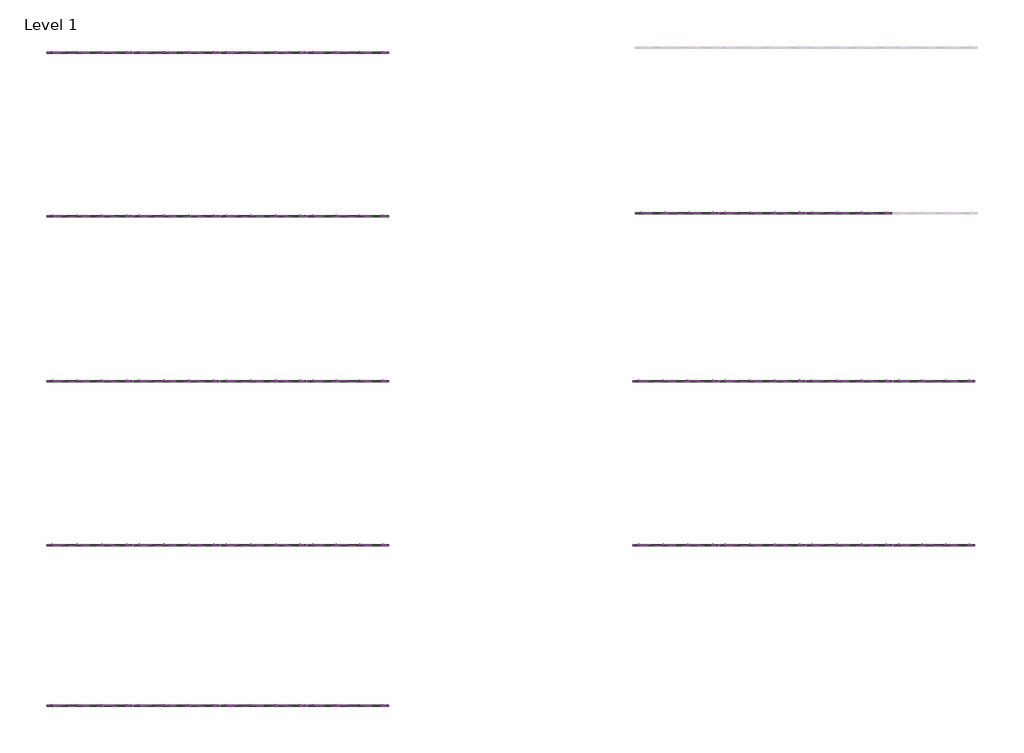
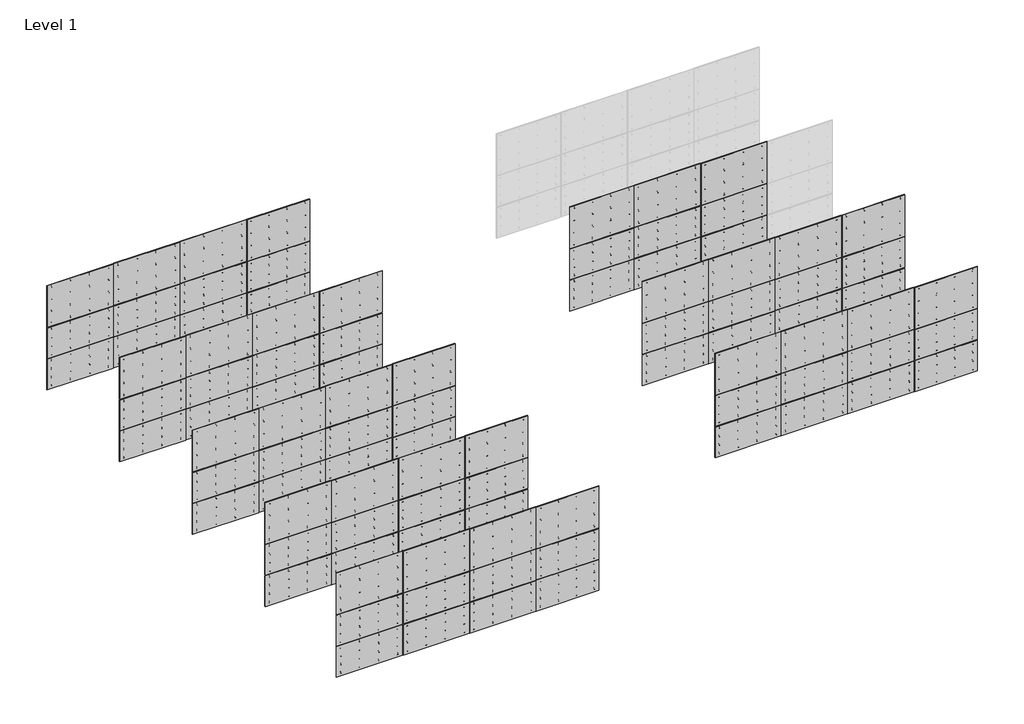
# One storey, part 1 of 2: 93 plates.
"""IFC4 building model written with IfcOpenShell, lengths in millimetres."""

from ifc_helpers import new_model, si_unit, origin, place, context, project, spatial, transform, mapped, element, save
from components import plate_f7e0e17a, plate_a8714ed1, plate_257bfe62, plate_956091e3, plate_8bd8e4bf, plate_0a6a2763, plate_4df36928, plate_e7208e3d, plate_5a68a687, plate_b30df0bb, plate_ee657770, plate_c508770f, plate_2fbea91c, plate_ad452986, plate_a66a7d0d, plate_dd0b600f, plate_aa715eca, plate_cb0a7364, plate_44aea27e, plate_24d3d4b7

model = new_model("IFC4")

# Units and contexts
model_context = context("Model", 3, world=origin())
ifc_project = project(units=[si_unit("LENGTHUNIT", "METRE", prefix="MILLI")], contexts=[model_context])

# Site, building, storey
site = spatial("IfcSite", under=ifc_project)
building = spatial("IfcBuilding", under=site)
storey = spatial("IfcBuildingStorey", under=building, Name="Level 1", Elevation=0.0)

# Plates
placement = place(None, origin())
plate_shape = plate_f7e0e17a(model_context)
plate_2_shape = plate_a8714ed1(model_context)
element("IfcPlate", 1, ObjectType="Single-Panel-Perforated-Amico_Architectural : Pisa", at=placement, inside=storey, context=model_context, shape_type="MappedRepresentation", body=[
    mapped(plate_shape, transform((-35489.5630054, -25812.5465941, 3022.6), x_axis=(1.0, 0.0, 0.0), y_axis=(0.0, 1.0, 0.0), z_axis=(0.0, 0.0, 1.0))),
    mapped(plate_2_shape, transform((-35489.5630054, -25812.5465941, 3022.6), x_axis=(1.0, 0.0, 0.0), y_axis=(0.0, 1.0, 0.0), z_axis=(0.0, 0.0, 1.0))),
])
element("IfcPlate", 2, ObjectType="Single-Panel-Perforated-Amico_Architectural : Pisa", at=placement, inside=storey, context=model_context, shape_type="MappedRepresentation", body=[
    mapped(plate_shape, transform((-32441.5630054, -25812.5465941, 3022.6), x_axis=(1.0, 0.0, 0.0), y_axis=(0.0, 1.0, 0.0), z_axis=(0.0, 0.0, 1.0))),
    mapped(plate_2_shape, transform((-32441.5630054, -25812.5465941, 3022.6), x_axis=(1.0, 0.0, 0.0), y_axis=(0.0, 1.0, 0.0), z_axis=(0.0, 0.0, 1.0))),
])
element("IfcPlate", 3, ObjectType="Single-Panel-Perforated-Amico_Architectural : Pisa", at=placement, inside=storey, context=model_context, shape_type="MappedRepresentation", body=[
    mapped(plate_shape, transform((-29393.5630054, -25812.5465941, 3022.6), x_axis=(1.0, 0.0, 0.0), y_axis=(0.0, 1.0, 0.0), z_axis=(0.0, 0.0, 1.0))),
    mapped(plate_2_shape, transform((-29393.5630054, -25812.5465941, 3022.6), x_axis=(1.0, 0.0, 0.0), y_axis=(0.0, 1.0, 0.0), z_axis=(0.0, 0.0, 1.0))),
])
plate_3_shape = plate_257bfe62(model_context)
plate_4_shape = plate_956091e3(model_context)
element("IfcPlate", 4, ObjectType="Single-Panel-Perforated-Amico_Architectural : Pisa", at=placement, inside=storey, context=model_context, shape_type="MappedRepresentation", body=[
    mapped(plate_3_shape, transform((-35489.5630054, -25812.5465941, 0.0), x_axis=(1.0, 0.0, 0.0), y_axis=(0.0, 1.0, 0.0), z_axis=(0.0, 0.0, 1.0))),
    mapped(plate_4_shape, transform((-35489.5630054, -25812.5465941, 0.0), x_axis=(1.0, 0.0, 0.0), y_axis=(0.0, 1.0, 0.0), z_axis=(0.0, 0.0, 1.0))),
])
element("IfcPlate", 5, ObjectType="Single-Panel-Perforated-Amico_Architectural : Pisa", at=placement, inside=storey, context=model_context, shape_type="MappedRepresentation", body=[
    mapped(plate_3_shape, transform((-32441.5630054, -25812.5465941, 0.0), x_axis=(1.0, 0.0, 0.0), y_axis=(0.0, 1.0, 0.0), z_axis=(0.0, 0.0, 1.0))),
    mapped(plate_4_shape, transform((-32441.5630054, -25812.5465941, 0.0), x_axis=(1.0, 0.0, 0.0), y_axis=(0.0, 1.0, 0.0), z_axis=(0.0, 0.0, 1.0))),
])
element("IfcPlate", 6, ObjectType="Single-Panel-Perforated-Amico_Architectural : Pisa", at=placement, inside=storey, context=model_context, shape_type="MappedRepresentation", body=[
    mapped(plate_3_shape, transform((-29393.5630054, -25812.5465941, 0.0), x_axis=(1.0, 0.0, 0.0), y_axis=(0.0, 1.0, 0.0), z_axis=(0.0, 0.0, 1.0))),
    mapped(plate_4_shape, transform((-29393.5630054, -25812.5465941, 0.0), x_axis=(1.0, 0.0, 0.0), y_axis=(0.0, 1.0, 0.0), z_axis=(0.0, 0.0, 1.0))),
])
element("IfcPlate", 7, ObjectType="Single-Panel-Perforated-Amico_Architectural : Pisa", at=placement, inside=storey, context=model_context, shape_type="MappedRepresentation", body=[
    mapped(plate_3_shape, transform((-35489.5630054, -25812.5465941, 1511.3), x_axis=(1.0, 0.0, 0.0), y_axis=(0.0, 1.0, 0.0), z_axis=(0.0, 0.0, 1.0))),
    mapped(plate_4_shape, transform((-35489.5630054, -25812.5465941, 1511.3), x_axis=(1.0, 0.0, 0.0), y_axis=(0.0, 1.0, 0.0), z_axis=(0.0, 0.0, 1.0))),
])
element("IfcPlate", 8, ObjectType="Single-Panel-Perforated-Amico_Architectural : Pisa", at=placement, inside=storey, context=model_context, shape_type="MappedRepresentation", body=[
    mapped(plate_3_shape, transform((-32441.5630054, -25812.5465941, 1511.3), x_axis=(1.0, 0.0, 0.0), y_axis=(0.0, 1.0, 0.0), z_axis=(0.0, 0.0, 1.0))),
    mapped(plate_4_shape, transform((-32441.5630054, -25812.5465941, 1511.3), x_axis=(1.0, 0.0, 0.0), y_axis=(0.0, 1.0, 0.0), z_axis=(0.0, 0.0, 1.0))),
])
element("IfcPlate", 9, ObjectType="Single-Panel-Perforated-Amico_Architectural : Pisa", at=placement, inside=storey, context=model_context, shape_type="MappedRepresentation", body=[
    mapped(plate_3_shape, transform((-29393.5630054, -25812.5465941, 1511.3), x_axis=(1.0, 0.0, 0.0), y_axis=(0.0, 1.0, 0.0), z_axis=(0.0, 0.0, 1.0))),
    mapped(plate_4_shape, transform((-29393.5630054, -25812.5465941, 1511.3), x_axis=(1.0, 0.0, 0.0), y_axis=(0.0, 1.0, 0.0), z_axis=(0.0, 0.0, 1.0))),
])
plate_5_shape = plate_8bd8e4bf(model_context)
plate_6_shape = plate_0a6a2763(model_context)
element("IfcPlate", 10, ObjectType="Single-Panel-Perforated-Amico_Architectural : Bilbao", at=placement, inside=storey, context=model_context, shape_type="MappedRepresentation", body=[
    mapped(plate_5_shape, transform((-14878.4842074, -8531.0307626, 0.0), x_axis=(1.0, 0.0, 0.0), y_axis=(0.0, 1.0, 0.0), z_axis=(0.0, 0.0, 1.0))),
    mapped(plate_6_shape, transform((-14878.4842074, -8531.0307626, 0.0), x_axis=(1.0, 0.0, 0.0), y_axis=(0.0, 1.0, 0.0), z_axis=(0.0, 0.0, 1.0))),
])
element("IfcPlate", 11, ObjectType="Single-Panel-Perforated-Amico_Architectural : Bilbao", at=placement, inside=storey, context=model_context, shape_type="MappedRepresentation", body=[
    mapped(plate_5_shape, transform((-14878.4842074, -8531.0307626, 1511.3), x_axis=(1.0, 0.0, 0.0), y_axis=(0.0, 1.0, 0.0), z_axis=(0.0, 0.0, 1.0))),
    mapped(plate_6_shape, transform((-14878.4842074, -8531.0307626, 1511.3), x_axis=(1.0, 0.0, 0.0), y_axis=(0.0, 1.0, 0.0), z_axis=(0.0, 0.0, 1.0))),
])
plate_7_shape = plate_4df36928(model_context)
plate_8_shape = plate_e7208e3d(model_context)
element("IfcPlate", 12, ObjectType="Single-Panel-Perforated-Amico_Architectural : Bilbao", at=placement, inside=storey, context=model_context, shape_type="MappedRepresentation", body=[
    mapped(plate_7_shape, transform((-14878.4842074, -8531.0307626, 3022.6), x_axis=(1.0, 0.0, 0.0), y_axis=(0.0, 1.0, 0.0), z_axis=(0.0, 0.0, 1.0))),
    mapped(plate_8_shape, transform((-14878.4842074, -8531.0307626, 3022.6), x_axis=(1.0, 0.0, 0.0), y_axis=(0.0, 1.0, 0.0), z_axis=(0.0, 0.0, 1.0))),
])
plate_9_shape = plate_5a68a687(model_context)
plate_10_shape = plate_b30df0bb(model_context)
element("IfcPlate", 13, ObjectType="Single-Panel-Perforated-Amico_Architectural : Venetian", at=placement, inside=storey, context=model_context, shape_type="MappedRepresentation", body=[
    mapped(plate_9_shape, transform((-14921.9130054, -14423.4912695, 0.0), x_axis=(1.0, 0.0, 0.0), y_axis=(0.0, 1.0, 0.0), z_axis=(0.0, 0.0, 1.0))),
    mapped(plate_10_shape, transform((-14921.9130054, -14423.4912695, 0.0), x_axis=(1.0, 0.0, 0.0), y_axis=(0.0, 1.0, 0.0), z_axis=(0.0, 0.0, 1.0))),
])
element("IfcPlate", 14, ObjectType="Single-Panel-Perforated-Amico_Architectural : Venetian", at=placement, inside=storey, context=model_context, shape_type="MappedRepresentation", body=[
    mapped(plate_9_shape, transform((-14921.9130054, -14423.4912695, 1511.3), x_axis=(1.0, 0.0, 0.0), y_axis=(0.0, 1.0, 0.0), z_axis=(0.0, 0.0, 1.0))),
    mapped(plate_10_shape, transform((-14921.9130054, -14423.4912695, 1511.3), x_axis=(1.0, 0.0, 0.0), y_axis=(0.0, 1.0, 0.0), z_axis=(0.0, 0.0, 1.0))),
])
plate_11_shape = plate_ee657770(model_context)
plate_12_shape = plate_c508770f(model_context)
element("IfcPlate", 15, ObjectType="Single-Panel-Perforated-Amico_Architectural : Venetian", at=placement, inside=storey, context=model_context, shape_type="MappedRepresentation", body=[
    mapped(plate_11_shape, transform((-14921.9130054, -14423.4912695, 3022.6), x_axis=(1.0, 0.0, 0.0), y_axis=(0.0, 1.0, 0.0), z_axis=(0.0, 0.0, 1.0))),
    mapped(plate_12_shape, transform((-14921.9130054, -14423.4912695, 3022.6), x_axis=(1.0, 0.0, 0.0), y_axis=(0.0, 1.0, 0.0), z_axis=(0.0, 0.0, 1.0))),
])
element("IfcPlate", 16, ObjectType="Single-Panel-Perforated-Amico_Architectural : Bilbao", at=placement, inside=storey, context=model_context, shape_type="MappedRepresentation", body=[
    mapped(plate_3_shape, transform((-11880.2630054, -8531.0307626, 0.0), x_axis=(1.0, 0.0, 0.0), y_axis=(0.0, 1.0, 0.0), z_axis=(0.0, 0.0, 1.0))),
    mapped(plate_4_shape, transform((-11880.2630054, -8531.0307626, 0.0), x_axis=(1.0, 0.0, 0.0), y_axis=(0.0, 1.0, 0.0), z_axis=(0.0, 0.0, 1.0))),
])
element("IfcPlate", 17, ObjectType="Single-Panel-Perforated-Amico_Architectural : Bilbao", at=placement, inside=storey, context=model_context, shape_type="MappedRepresentation", body=[
    mapped(plate_3_shape, transform((-8832.2630054, -8531.0307626, 0.0), x_axis=(1.0, 0.0, 0.0), y_axis=(0.0, 1.0, 0.0), z_axis=(0.0, 0.0, 1.0))),
    mapped(plate_4_shape, transform((-8832.2630054, -8531.0307626, 0.0), x_axis=(1.0, 0.0, 0.0), y_axis=(0.0, 1.0, 0.0), z_axis=(0.0, 0.0, 1.0))),
])
element("IfcPlate", 18, ObjectType="Single-Panel-Perforated-Amico_Architectural : Bilbao", at=placement, inside=storey, context=model_context, shape_type="MappedRepresentation", body=[
    mapped(plate_3_shape, transform((-11880.2630054, -8531.0307626, 1511.3), x_axis=(1.0, 0.0, 0.0), y_axis=(0.0, 1.0, 0.0), z_axis=(0.0, 0.0, 1.0))),
    mapped(plate_4_shape, transform((-11880.2630054, -8531.0307626, 1511.3), x_axis=(1.0, 0.0, 0.0), y_axis=(0.0, 1.0, 0.0), z_axis=(0.0, 0.0, 1.0))),
])
element("IfcPlate", 19, ObjectType="Single-Panel-Perforated-Amico_Architectural : Bilbao", at=placement, inside=storey, context=model_context, shape_type="MappedRepresentation", body=[
    mapped(plate_3_shape, transform((-8832.2630054, -8531.0307626, 1511.3), x_axis=(1.0, 0.0, 0.0), y_axis=(0.0, 1.0, 0.0), z_axis=(0.0, 0.0, 1.0))),
    mapped(plate_4_shape, transform((-8832.2630054, -8531.0307626, 1511.3), x_axis=(1.0, 0.0, 0.0), y_axis=(0.0, 1.0, 0.0), z_axis=(0.0, 0.0, 1.0))),
])
element("IfcPlate", 20, ObjectType="Single-Panel-Perforated-Amico_Architectural : Bilbao", at=placement, inside=storey, context=model_context, shape_type="MappedRepresentation", body=[
    mapped(plate_shape, transform((-11880.2630054, -8531.0307626, 3022.6), x_axis=(1.0, 0.0, 0.0), y_axis=(0.0, 1.0, 0.0), z_axis=(0.0, 0.0, 1.0))),
    mapped(plate_2_shape, transform((-11880.2630054, -8531.0307626, 3022.6), x_axis=(1.0, 0.0, 0.0), y_axis=(0.0, 1.0, 0.0), z_axis=(0.0, 0.0, 1.0))),
])
element("IfcPlate", 21, ObjectType="Single-Panel-Perforated-Amico_Architectural : Bilbao", at=placement, inside=storey, context=model_context, shape_type="MappedRepresentation", body=[
    mapped(plate_shape, transform((-8832.2630054, -8531.0307626, 3022.6), x_axis=(1.0, 0.0, 0.0), y_axis=(0.0, 1.0, 0.0), z_axis=(0.0, 0.0, 1.0))),
    mapped(plate_2_shape, transform((-8832.2630054, -8531.0307626, 3022.6), x_axis=(1.0, 0.0, 0.0), y_axis=(0.0, 1.0, 0.0), z_axis=(0.0, 0.0, 1.0))),
])
element("IfcPlate", 22, ObjectType="Single-Panel-Perforated-Amico_Architectural : Venetian", at=placement, inside=storey, context=model_context, shape_type="MappedRepresentation", body=[
    mapped(plate_3_shape, transform((-11880.2630054, -14423.4912695, 0.0), x_axis=(1.0, 0.0, 0.0), y_axis=(0.0, 1.0, 0.0), z_axis=(0.0, 0.0, 1.0))),
    mapped(plate_4_shape, transform((-11880.2630054, -14423.4912695, 0.0), x_axis=(1.0, 0.0, 0.0), y_axis=(0.0, 1.0, 0.0), z_axis=(0.0, 0.0, 1.0))),
])
element("IfcPlate", 23, ObjectType="Single-Panel-Perforated-Amico_Architectural : Venetian", at=placement, inside=storey, context=model_context, shape_type="MappedRepresentation", body=[
    mapped(plate_3_shape, transform((-8832.2630054, -14423.4912695, 0.0), x_axis=(1.0, 0.0, 0.0), y_axis=(0.0, 1.0, 0.0), z_axis=(0.0, 0.0, 1.0))),
    mapped(plate_4_shape, transform((-8832.2630054, -14423.4912695, 0.0), x_axis=(1.0, 0.0, 0.0), y_axis=(0.0, 1.0, 0.0), z_axis=(0.0, 0.0, 1.0))),
])
element("IfcPlate", 24, ObjectType="Single-Panel-Perforated-Amico_Architectural : Venetian", at=placement, inside=storey, context=model_context, shape_type="MappedRepresentation", body=[
    mapped(plate_3_shape, transform((-11880.2630054, -14423.4912695, 1511.3), x_axis=(1.0, 0.0, 0.0), y_axis=(0.0, 1.0, 0.0), z_axis=(0.0, 0.0, 1.0))),
    mapped(plate_4_shape, transform((-11880.2630054, -14423.4912695, 1511.3), x_axis=(1.0, 0.0, 0.0), y_axis=(0.0, 1.0, 0.0), z_axis=(0.0, 0.0, 1.0))),
])
element("IfcPlate", 25, ObjectType="Single-Panel-Perforated-Amico_Architectural : Venetian", at=placement, inside=storey, context=model_context, shape_type="MappedRepresentation", body=[
    mapped(plate_3_shape, transform((-8832.2630054, -14423.4912695, 1511.3), x_axis=(1.0, 0.0, 0.0), y_axis=(0.0, 1.0, 0.0), z_axis=(0.0, 0.0, 1.0))),
    mapped(plate_4_shape, transform((-8832.2630054, -14423.4912695, 1511.3), x_axis=(1.0, 0.0, 0.0), y_axis=(0.0, 1.0, 0.0), z_axis=(0.0, 0.0, 1.0))),
])
element("IfcPlate", 26, ObjectType="Single-Panel-Perforated-Amico_Architectural : Venetian", at=placement, inside=storey, context=model_context, shape_type="MappedRepresentation", body=[
    mapped(plate_shape, transform((-11880.2630054, -14423.4912695, 3022.6), x_axis=(1.0, 0.0, 0.0), y_axis=(0.0, 1.0, 0.0), z_axis=(0.0, 0.0, 1.0))),
    mapped(plate_2_shape, transform((-11880.2630054, -14423.4912695, 3022.6), x_axis=(1.0, 0.0, 0.0), y_axis=(0.0, 1.0, 0.0), z_axis=(0.0, 0.0, 1.0))),
])
element("IfcPlate", 27, ObjectType="Single-Panel-Perforated-Amico_Architectural : Venetian", at=placement, inside=storey, context=model_context, shape_type="MappedRepresentation", body=[
    mapped(plate_shape, transform((-8832.2630054, -14423.4912695, 3022.6), x_axis=(1.0, 0.0, 0.0), y_axis=(0.0, 1.0, 0.0), z_axis=(0.0, 0.0, 1.0))),
    mapped(plate_2_shape, transform((-8832.2630054, -14423.4912695, 3022.6), x_axis=(1.0, 0.0, 0.0), y_axis=(0.0, 1.0, 0.0), z_axis=(0.0, 0.0, 1.0))),
])
plate_13_shape = plate_2fbea91c(model_context)
plate_14_shape = plate_ad452986(model_context)
element("IfcPlate", 28, ObjectType="Single-Panel-Perforated-Amico_Architectural : Venetian", at=placement, inside=storey, context=model_context, shape_type="MappedRepresentation", body=[
    mapped(plate_13_shape, transform((-5854.1130054, -14423.4912695, 0.0), x_axis=(1.0, 0.0, 0.0), y_axis=(0.0, 1.0, 0.0), z_axis=(0.0, 0.0, 1.0))),
    mapped(plate_14_shape, transform((-5854.1130054, -14423.4912695, 0.0), x_axis=(1.0, 0.0, 0.0), y_axis=(0.0, 1.0, 0.0), z_axis=(0.0, 0.0, 1.0))),
])
element("IfcPlate", 29, ObjectType="Single-Panel-Perforated-Amico_Architectural : Venetian", at=placement, inside=storey, context=model_context, shape_type="MappedRepresentation", body=[
    mapped(plate_13_shape, transform((-5854.1130054, -14423.4912695, 1511.3), x_axis=(1.0, 0.0, 0.0), y_axis=(0.0, 1.0, 0.0), z_axis=(0.0, 0.0, 1.0))),
    mapped(plate_14_shape, transform((-5854.1130054, -14423.4912695, 1511.3), x_axis=(1.0, 0.0, 0.0), y_axis=(0.0, 1.0, 0.0), z_axis=(0.0, 0.0, 1.0))),
])
plate_15_shape = plate_a66a7d0d(model_context)
plate_16_shape = plate_dd0b600f(model_context)
element("IfcPlate", 30, ObjectType="Single-Panel-Perforated-Amico_Architectural : Venetian", at=placement, inside=storey, context=model_context, shape_type="MappedRepresentation", body=[
    mapped(plate_15_shape, transform((-5854.1130054, -14423.4912695, 3022.6), x_axis=(1.0, 0.0, 0.0), y_axis=(0.0, 1.0, 0.0), z_axis=(0.0, 0.0, 1.0))),
    mapped(plate_16_shape, transform((-5854.1130054, -14423.4912695, 3022.6), x_axis=(1.0, 0.0, 0.0), y_axis=(0.0, 1.0, 0.0), z_axis=(0.0, 0.0, 1.0))),
])
plate_17_shape = plate_aa715eca(model_context)
plate_18_shape = plate_cb0a7364(model_context)
element("IfcPlate", 31, ObjectType="Single-Panel-Perforated-Amico_Architectural : Pisa", at=placement, inside=storey, context=model_context, shape_type="MappedRepresentation", body=[
    mapped(plate_17_shape, transform((-26421.7630054, -25812.5465941, 0.0), x_axis=(1.0, 0.0, 0.0), y_axis=(0.0, 1.0, 0.0), z_axis=(0.0, 0.0, 1.0))),
    mapped(plate_18_shape, transform((-26421.7630054, -25812.5465941, 0.0), x_axis=(1.0, 0.0, 0.0), y_axis=(0.0, 1.0, 0.0), z_axis=(0.0, 0.0, 1.0))),
])
element("IfcPlate", 32, ObjectType="Single-Panel-Perforated-Amico_Architectural : Pisa", at=placement, inside=storey, context=model_context, shape_type="MappedRepresentation", body=[
    mapped(plate_17_shape, transform((-26421.7630054, -25812.5465941, 1511.3), x_axis=(1.0, 0.0, 0.0), y_axis=(0.0, 1.0, 0.0), z_axis=(0.0, 0.0, 1.0))),
    mapped(plate_18_shape, transform((-26421.7630054, -25812.5465941, 1511.3), x_axis=(1.0, 0.0, 0.0), y_axis=(0.0, 1.0, 0.0), z_axis=(0.0, 0.0, 1.0))),
])
plate_19_shape = plate_44aea27e(model_context)
plate_20_shape = plate_24d3d4b7(model_context)
element("IfcPlate", 33, ObjectType="Single-Panel-Perforated-Amico_Architectural : Pisa", at=placement, inside=storey, context=model_context, shape_type="MappedRepresentation", body=[
    mapped(plate_19_shape, transform((-26421.7630054, -25812.5465941, 3022.6), x_axis=(1.0, 0.0, 0.0), y_axis=(0.0, 1.0, 0.0), z_axis=(0.0, 0.0, 1.0))),
    mapped(plate_20_shape, transform((-26421.7630054, -25812.5465941, 3022.6), x_axis=(1.0, 0.0, 0.0), y_axis=(0.0, 1.0, 0.0), z_axis=(0.0, 0.0, 1.0))),
])
element("IfcPlate", 34, ObjectType="Single-Panel-Perforated-Amico_Architectural : 1/2\" Circle - 11/16\" Staggered", at=placement, inside=storey, context=model_context, shape_type="MappedRepresentation", body=[
    mapped(plate_9_shape, transform((-14921.9130054, -20173.7465941, 0.0), x_axis=(1.0, 0.0, 0.0), y_axis=(0.0, 1.0, 0.0), z_axis=(0.0, 0.0, 1.0))),
    mapped(plate_10_shape, transform((-14921.9130054, -20173.7465941, 0.0), x_axis=(1.0, 0.0, 0.0), y_axis=(0.0, 1.0, 0.0), z_axis=(0.0, 0.0, 1.0))),
])
element("IfcPlate", 35, ObjectType="Single-Panel-Perforated-Amico_Architectural : 1/2\" Circle - 11/16\" Staggered", at=placement, inside=storey, context=model_context, shape_type="MappedRepresentation", body=[
    mapped(plate_9_shape, transform((-14921.9130054, -20173.7465941, 1511.3), x_axis=(1.0, 0.0, 0.0), y_axis=(0.0, 1.0, 0.0), z_axis=(0.0, 0.0, 1.0))),
    mapped(plate_10_shape, transform((-14921.9130054, -20173.7465941, 1511.3), x_axis=(1.0, 0.0, 0.0), y_axis=(0.0, 1.0, 0.0), z_axis=(0.0, 0.0, 1.0))),
])
element("IfcPlate", 36, ObjectType="Single-Panel-Perforated-Amico_Architectural : 1/2\" Circle - 11/16\" Staggered", at=placement, inside=storey, context=model_context, shape_type="MappedRepresentation", body=[
    mapped(plate_11_shape, transform((-14921.9130054, -20173.7465941, 3022.6), x_axis=(1.0, 0.0, 0.0), y_axis=(0.0, 1.0, 0.0), z_axis=(0.0, 0.0, 1.0))),
    mapped(plate_12_shape, transform((-14921.9130054, -20173.7465941, 3022.6), x_axis=(1.0, 0.0, 0.0), y_axis=(0.0, 1.0, 0.0), z_axis=(0.0, 0.0, 1.0))),
])
element("IfcPlate", 37, ObjectType="Single-Panel-Perforated-Amico_Architectural : 1/2\" Circle - 11/16\" Staggered", at=placement, inside=storey, context=model_context, shape_type="MappedRepresentation", body=[
    mapped(plate_3_shape, transform((-11880.2630054, -20173.7465941, 0.0), x_axis=(1.0, 0.0, 0.0), y_axis=(0.0, 1.0, 0.0), z_axis=(0.0, 0.0, 1.0))),
    mapped(plate_4_shape, transform((-11880.2630054, -20173.7465941, 0.0), x_axis=(1.0, 0.0, 0.0), y_axis=(0.0, 1.0, 0.0), z_axis=(0.0, 0.0, 1.0))),
])
element("IfcPlate", 38, ObjectType="Single-Panel-Perforated-Amico_Architectural : 1/2\" Circle - 11/16\" Staggered", at=placement, inside=storey, context=model_context, shape_type="MappedRepresentation", body=[
    mapped(plate_3_shape, transform((-8832.2630054, -20173.7465941, 0.0), x_axis=(1.0, 0.0, 0.0), y_axis=(0.0, 1.0, 0.0), z_axis=(0.0, 0.0, 1.0))),
    mapped(plate_4_shape, transform((-8832.2630054, -20173.7465941, 0.0), x_axis=(1.0, 0.0, 0.0), y_axis=(0.0, 1.0, 0.0), z_axis=(0.0, 0.0, 1.0))),
])
element("IfcPlate", 39, ObjectType="Single-Panel-Perforated-Amico_Architectural : 1/2\" Circle - 11/16\" Staggered", at=placement, inside=storey, context=model_context, shape_type="MappedRepresentation", body=[
    mapped(plate_3_shape, transform((-11880.2630054, -20173.7465941, 1511.3), x_axis=(1.0, 0.0, 0.0), y_axis=(0.0, 1.0, 0.0), z_axis=(0.0, 0.0, 1.0))),
    mapped(plate_4_shape, transform((-11880.2630054, -20173.7465941, 1511.3), x_axis=(1.0, 0.0, 0.0), y_axis=(0.0, 1.0, 0.0), z_axis=(0.0, 0.0, 1.0))),
])
element("IfcPlate", 40, ObjectType="Single-Panel-Perforated-Amico_Architectural : 1/2\" Circle - 11/16\" Staggered", at=placement, inside=storey, context=model_context, shape_type="MappedRepresentation", body=[
    mapped(plate_3_shape, transform((-8832.2630054, -20173.7465941, 1511.3), x_axis=(1.0, 0.0, 0.0), y_axis=(0.0, 1.0, 0.0), z_axis=(0.0, 0.0, 1.0))),
    mapped(plate_4_shape, transform((-8832.2630054, -20173.7465941, 1511.3), x_axis=(1.0, 0.0, 0.0), y_axis=(0.0, 1.0, 0.0), z_axis=(0.0, 0.0, 1.0))),
])
element("IfcPlate", 41, ObjectType="Single-Panel-Perforated-Amico_Architectural : 1/2\" Circle - 11/16\" Staggered", at=placement, inside=storey, context=model_context, shape_type="MappedRepresentation", body=[
    mapped(plate_shape, transform((-11880.2630054, -20173.7465941, 3022.6), x_axis=(1.0, 0.0, 0.0), y_axis=(0.0, 1.0, 0.0), z_axis=(0.0, 0.0, 1.0))),
    mapped(plate_2_shape, transform((-11880.2630054, -20173.7465941, 3022.6), x_axis=(1.0, 0.0, 0.0), y_axis=(0.0, 1.0, 0.0), z_axis=(0.0, 0.0, 1.0))),
])
element("IfcPlate", 42, ObjectType="Single-Panel-Perforated-Amico_Architectural : 1/2\" Circle - 11/16\" Staggered", at=placement, inside=storey, context=model_context, shape_type="MappedRepresentation", body=[
    mapped(plate_shape, transform((-8832.2630054, -20173.7465941, 3022.6), x_axis=(1.0, 0.0, 0.0), y_axis=(0.0, 1.0, 0.0), z_axis=(0.0, 0.0, 1.0))),
    mapped(plate_2_shape, transform((-8832.2630054, -20173.7465941, 3022.6), x_axis=(1.0, 0.0, 0.0), y_axis=(0.0, 1.0, 0.0), z_axis=(0.0, 0.0, 1.0))),
])
element("IfcPlate", 43, ObjectType="Single-Panel-Perforated-Amico_Architectural : 1/2\" Circle - 11/16\" Staggered", at=placement, inside=storey, context=model_context, shape_type="MappedRepresentation", body=[
    mapped(plate_13_shape, transform((-5854.1130054, -20173.7465941, 0.0), x_axis=(1.0, 0.0, 0.0), y_axis=(0.0, 1.0, 0.0), z_axis=(0.0, 0.0, 1.0))),
    mapped(plate_14_shape, transform((-5854.1130054, -20173.7465941, 0.0), x_axis=(1.0, 0.0, 0.0), y_axis=(0.0, 1.0, 0.0), z_axis=(0.0, 0.0, 1.0))),
])
element("IfcPlate", 44, ObjectType="Single-Panel-Perforated-Amico_Architectural : 1/2\" Circle - 11/16\" Staggered", at=placement, inside=storey, context=model_context, shape_type="MappedRepresentation", body=[
    mapped(plate_13_shape, transform((-5854.1130054, -20173.7465941, 1511.3), x_axis=(1.0, 0.0, 0.0), y_axis=(0.0, 1.0, 0.0), z_axis=(0.0, 0.0, 1.0))),
    mapped(plate_14_shape, transform((-5854.1130054, -20173.7465941, 1511.3), x_axis=(1.0, 0.0, 0.0), y_axis=(0.0, 1.0, 0.0), z_axis=(0.0, 0.0, 1.0))),
])
element("IfcPlate", 45, ObjectType="Single-Panel-Perforated-Amico_Architectural : 1/2\" Circle - 11/16\" Staggered", at=placement, inside=storey, context=model_context, shape_type="MappedRepresentation", body=[
    mapped(plate_15_shape, transform((-5854.1130054, -20173.7465941, 3022.6), x_axis=(1.0, 0.0, 0.0), y_axis=(0.0, 1.0, 0.0), z_axis=(0.0, 0.0, 1.0))),
    mapped(plate_16_shape, transform((-5854.1130054, -20173.7465941, 3022.6), x_axis=(1.0, 0.0, 0.0), y_axis=(0.0, 1.0, 0.0), z_axis=(0.0, 0.0, 1.0))),
])
element("IfcPlate", 46, ObjectType="Single-Panel-Perforated-Amico_Architectural : 3/16\" Circle - 5/16\" Staggered", at=placement, inside=storey, context=model_context, shape_type="MappedRepresentation", body=[
    mapped(plate_shape, transform((-35489.5630054, -14423.4912695, 3022.6), x_axis=(1.0, 0.0, 0.0), y_axis=(0.0, 1.0, 0.0), z_axis=(0.0, 0.0, 1.0))),
    mapped(plate_2_shape, transform((-35489.5630054, -14423.4912695, 3022.6), x_axis=(1.0, 0.0, 0.0), y_axis=(0.0, 1.0, 0.0), z_axis=(0.0, 0.0, 1.0))),
])
element("IfcPlate", 47, ObjectType="Single-Panel-Perforated-Amico_Architectural : 3/16\" Circle - 5/16\" Staggered", at=placement, inside=storey, context=model_context, shape_type="MappedRepresentation", body=[
    mapped(plate_shape, transform((-32441.5630054, -14423.4912695, 3022.6), x_axis=(1.0, 0.0, 0.0), y_axis=(0.0, 1.0, 0.0), z_axis=(0.0, 0.0, 1.0))),
    mapped(plate_2_shape, transform((-32441.5630054, -14423.4912695, 3022.6), x_axis=(1.0, 0.0, 0.0), y_axis=(0.0, 1.0, 0.0), z_axis=(0.0, 0.0, 1.0))),
])
element("IfcPlate", 48, ObjectType="Single-Panel-Perforated-Amico_Architectural : 3/16\" Circle - 5/16\" Staggered", at=placement, inside=storey, context=model_context, shape_type="MappedRepresentation", body=[
    mapped(plate_shape, transform((-29393.5630054, -14423.4912695, 3022.6), x_axis=(1.0, 0.0, 0.0), y_axis=(0.0, 1.0, 0.0), z_axis=(0.0, 0.0, 1.0))),
    mapped(plate_2_shape, transform((-29393.5630054, -14423.4912695, 3022.6), x_axis=(1.0, 0.0, 0.0), y_axis=(0.0, 1.0, 0.0), z_axis=(0.0, 0.0, 1.0))),
])
element("IfcPlate", 49, ObjectType="Single-Panel-Perforated-Amico_Architectural : 3/16\" Circle - 5/16\" Staggered", at=placement, inside=storey, context=model_context, shape_type="MappedRepresentation", body=[
    mapped(plate_3_shape, transform((-35489.5630054, -14423.4912695, 0.0), x_axis=(1.0, 0.0, 0.0), y_axis=(0.0, 1.0, 0.0), z_axis=(0.0, 0.0, 1.0))),
    mapped(plate_4_shape, transform((-35489.5630054, -14423.4912695, 0.0), x_axis=(1.0, 0.0, 0.0), y_axis=(0.0, 1.0, 0.0), z_axis=(0.0, 0.0, 1.0))),
])
element("IfcPlate", 50, ObjectType="Single-Panel-Perforated-Amico_Architectural : 3/16\" Circle - 5/16\" Staggered", at=placement, inside=storey, context=model_context, shape_type="MappedRepresentation", body=[
    mapped(plate_3_shape, transform((-32441.5630054, -14423.4912695, 0.0), x_axis=(1.0, 0.0, 0.0), y_axis=(0.0, 1.0, 0.0), z_axis=(0.0, 0.0, 1.0))),
    mapped(plate_4_shape, transform((-32441.5630054, -14423.4912695, 0.0), x_axis=(1.0, 0.0, 0.0), y_axis=(0.0, 1.0, 0.0), z_axis=(0.0, 0.0, 1.0))),
])
element("IfcPlate", 51, ObjectType="Single-Panel-Perforated-Amico_Architectural : 3/16\" Circle - 5/16\" Staggered", at=placement, inside=storey, context=model_context, shape_type="MappedRepresentation", body=[
    mapped(plate_3_shape, transform((-29393.5630054, -14423.4912695, 0.0), x_axis=(1.0, 0.0, 0.0), y_axis=(0.0, 1.0, 0.0), z_axis=(0.0, 0.0, 1.0))),
    mapped(plate_4_shape, transform((-29393.5630054, -14423.4912695, 0.0), x_axis=(1.0, 0.0, 0.0), y_axis=(0.0, 1.0, 0.0), z_axis=(0.0, 0.0, 1.0))),
])
element("IfcPlate", 52, ObjectType="Single-Panel-Perforated-Amico_Architectural : 3/16\" Circle - 5/16\" Staggered", at=placement, inside=storey, context=model_context, shape_type="MappedRepresentation", body=[
    mapped(plate_3_shape, transform((-35489.5630054, -14423.4912695, 1511.3), x_axis=(1.0, 0.0, 0.0), y_axis=(0.0, 1.0, 0.0), z_axis=(0.0, 0.0, 1.0))),
    mapped(plate_4_shape, transform((-35489.5630054, -14423.4912695, 1511.3), x_axis=(1.0, 0.0, 0.0), y_axis=(0.0, 1.0, 0.0), z_axis=(0.0, 0.0, 1.0))),
])
element("IfcPlate", 53, ObjectType="Single-Panel-Perforated-Amico_Architectural : 3/16\" Circle - 5/16\" Staggered", at=placement, inside=storey, context=model_context, shape_type="MappedRepresentation", body=[
    mapped(plate_3_shape, transform((-32441.5630054, -14423.4912695, 1511.3), x_axis=(1.0, 0.0, 0.0), y_axis=(0.0, 1.0, 0.0), z_axis=(0.0, 0.0, 1.0))),
    mapped(plate_4_shape, transform((-32441.5630054, -14423.4912695, 1511.3), x_axis=(1.0, 0.0, 0.0), y_axis=(0.0, 1.0, 0.0), z_axis=(0.0, 0.0, 1.0))),
])
element("IfcPlate", 54, ObjectType="Single-Panel-Perforated-Amico_Architectural : 3/16\" Circle - 5/16\" Staggered", at=placement, inside=storey, context=model_context, shape_type="MappedRepresentation", body=[
    mapped(plate_3_shape, transform((-29393.5630054, -14423.4912695, 1511.3), x_axis=(1.0, 0.0, 0.0), y_axis=(0.0, 1.0, 0.0), z_axis=(0.0, 0.0, 1.0))),
    mapped(plate_4_shape, transform((-29393.5630054, -14423.4912695, 1511.3), x_axis=(1.0, 0.0, 0.0), y_axis=(0.0, 1.0, 0.0), z_axis=(0.0, 0.0, 1.0))),
])
element("IfcPlate", 55, ObjectType="Single-Panel-Perforated-Amico_Architectural : 3/16\" Circle - 5/16\" Staggered", at=placement, inside=storey, context=model_context, shape_type="MappedRepresentation", body=[
    mapped(plate_17_shape, transform((-26421.7630054, -14423.4912695, 0.0), x_axis=(1.0, 0.0, 0.0), y_axis=(0.0, 1.0, 0.0), z_axis=(0.0, 0.0, 1.0))),
    mapped(plate_18_shape, transform((-26421.7630054, -14423.4912695, 0.0), x_axis=(1.0, 0.0, 0.0), y_axis=(0.0, 1.0, 0.0), z_axis=(0.0, 0.0, 1.0))),
])
element("IfcPlate", 56, ObjectType="Single-Panel-Perforated-Amico_Architectural : 3/16\" Circle - 5/16\" Staggered", at=placement, inside=storey, context=model_context, shape_type="MappedRepresentation", body=[
    mapped(plate_17_shape, transform((-26421.7630054, -14423.4912695, 1511.3), x_axis=(1.0, 0.0, 0.0), y_axis=(0.0, 1.0, 0.0), z_axis=(0.0, 0.0, 1.0))),
    mapped(plate_18_shape, transform((-26421.7630054, -14423.4912695, 1511.3), x_axis=(1.0, 0.0, 0.0), y_axis=(0.0, 1.0, 0.0), z_axis=(0.0, 0.0, 1.0))),
])
element("IfcPlate", 57, ObjectType="Single-Panel-Perforated-Amico_Architectural : 3/16\" Circle - 5/16\" Staggered", at=placement, inside=storey, context=model_context, shape_type="MappedRepresentation", body=[
    mapped(plate_19_shape, transform((-26421.7630054, -14423.4912695, 3022.6), x_axis=(1.0, 0.0, 0.0), y_axis=(0.0, 1.0, 0.0), z_axis=(0.0, 0.0, 1.0))),
    mapped(plate_20_shape, transform((-26421.7630054, -14423.4912695, 3022.6), x_axis=(1.0, 0.0, 0.0), y_axis=(0.0, 1.0, 0.0), z_axis=(0.0, 0.0, 1.0))),
])
element("IfcPlate", 58, ObjectType="Single-Panel-Perforated-Amico_Architectural : Apex 02", at=placement, inside=storey, context=model_context, shape_type="MappedRepresentation", body=[
    mapped(plate_3_shape, transform((-35489.5630054, -2891.8912695, 0.0), x_axis=(1.0, 0.0, 0.0), y_axis=(0.0, 1.0, 0.0), z_axis=(0.0, 0.0, 1.0))),
    mapped(plate_4_shape, transform((-35489.5630054, -2891.8912695, 0.0), x_axis=(1.0, 0.0, 0.0), y_axis=(0.0, 1.0, 0.0), z_axis=(0.0, 0.0, 1.0))),
])
element("IfcPlate", 59, ObjectType="Single-Panel-Perforated-Amico_Architectural : Apex 02", at=placement, inside=storey, context=model_context, shape_type="MappedRepresentation", body=[
    mapped(plate_3_shape, transform((-32441.5630054, -2891.8912695, 0.0), x_axis=(1.0, 0.0, 0.0), y_axis=(0.0, 1.0, 0.0), z_axis=(0.0, 0.0, 1.0))),
    mapped(plate_4_shape, transform((-32441.5630054, -2891.8912695, 0.0), x_axis=(1.0, 0.0, 0.0), y_axis=(0.0, 1.0, 0.0), z_axis=(0.0, 0.0, 1.0))),
])
element("IfcPlate", 60, ObjectType="Single-Panel-Perforated-Amico_Architectural : Apex 02", at=placement, inside=storey, context=model_context, shape_type="MappedRepresentation", body=[
    mapped(plate_3_shape, transform((-29393.5630054, -2891.8912695, 0.0), x_axis=(1.0, 0.0, 0.0), y_axis=(0.0, 1.0, 0.0), z_axis=(0.0, 0.0, 1.0))),
    mapped(plate_4_shape, transform((-29393.5630054, -2891.8912695, 0.0), x_axis=(1.0, 0.0, 0.0), y_axis=(0.0, 1.0, 0.0), z_axis=(0.0, 0.0, 1.0))),
])
element("IfcPlate", 61, ObjectType="Single-Panel-Perforated-Amico_Architectural : Apex 02", at=placement, inside=storey, context=model_context, shape_type="MappedRepresentation", body=[
    mapped(plate_3_shape, transform((-35489.5630054, -2891.8912695, 1511.3), x_axis=(1.0, 0.0, 0.0), y_axis=(0.0, 1.0, 0.0), z_axis=(0.0, 0.0, 1.0))),
    mapped(plate_4_shape, transform((-35489.5630054, -2891.8912695, 1511.3), x_axis=(1.0, 0.0, 0.0), y_axis=(0.0, 1.0, 0.0), z_axis=(0.0, 0.0, 1.0))),
])
element("IfcPlate", 62, ObjectType="Single-Panel-Perforated-Amico_Architectural : Apex 02", at=placement, inside=storey, context=model_context, shape_type="MappedRepresentation", body=[
    mapped(plate_3_shape, transform((-32441.5630054, -2891.8912695, 1511.3), x_axis=(1.0, 0.0, 0.0), y_axis=(0.0, 1.0, 0.0), z_axis=(0.0, 0.0, 1.0))),
    mapped(plate_4_shape, transform((-32441.5630054, -2891.8912695, 1511.3), x_axis=(1.0, 0.0, 0.0), y_axis=(0.0, 1.0, 0.0), z_axis=(0.0, 0.0, 1.0))),
])
element("IfcPlate", 63, ObjectType="Single-Panel-Perforated-Amico_Architectural : Apex 02", at=placement, inside=storey, context=model_context, shape_type="MappedRepresentation", body=[
    mapped(plate_3_shape, transform((-29393.5630054, -2891.8912695, 1511.3), x_axis=(1.0, 0.0, 0.0), y_axis=(0.0, 1.0, 0.0), z_axis=(0.0, 0.0, 1.0))),
    mapped(plate_4_shape, transform((-29393.5630054, -2891.8912695, 1511.3), x_axis=(1.0, 0.0, 0.0), y_axis=(0.0, 1.0, 0.0), z_axis=(0.0, 0.0, 1.0))),
])
element("IfcPlate", 64, ObjectType="Single-Panel-Perforated-Amico_Architectural : Apex 02", at=placement, inside=storey, context=model_context, shape_type="MappedRepresentation", body=[
    mapped(plate_17_shape, transform((-26421.7630054, -2891.8912695, 0.0), x_axis=(1.0, 0.0, 0.0), y_axis=(0.0, 1.0, 0.0), z_axis=(0.0, 0.0, 1.0))),
    mapped(plate_18_shape, transform((-26421.7630054, -2891.8912695, 0.0), x_axis=(1.0, 0.0, 0.0), y_axis=(0.0, 1.0, 0.0), z_axis=(0.0, 0.0, 1.0))),
])
element("IfcPlate", 65, ObjectType="Single-Panel-Perforated-Amico_Architectural : Apex 02", at=placement, inside=storey, context=model_context, shape_type="MappedRepresentation", body=[
    mapped(plate_17_shape, transform((-26421.7630054, -2891.8912695, 1511.3), x_axis=(1.0, 0.0, 0.0), y_axis=(0.0, 1.0, 0.0), z_axis=(0.0, 0.0, 1.0))),
    mapped(plate_18_shape, transform((-26421.7630054, -2891.8912695, 1511.3), x_axis=(1.0, 0.0, 0.0), y_axis=(0.0, 1.0, 0.0), z_axis=(0.0, 0.0, 1.0))),
])
element("IfcPlate", 66, ObjectType="Single-Panel-Perforated-Amico_Architectural : Apex 02", at=placement, inside=storey, context=model_context, shape_type="MappedRepresentation", body=[
    mapped(plate_shape, transform((-35489.5630054, -2891.8912695, 3022.6), x_axis=(1.0, 0.0, 0.0), y_axis=(0.0, 1.0, 0.0), z_axis=(0.0, 0.0, 1.0))),
    mapped(plate_2_shape, transform((-35489.5630054, -2891.8912695, 3022.6), x_axis=(1.0, 0.0, 0.0), y_axis=(0.0, 1.0, 0.0), z_axis=(0.0, 0.0, 1.0))),
])
element("IfcPlate", 67, ObjectType="Single-Panel-Perforated-Amico_Architectural : Apex 02", at=placement, inside=storey, context=model_context, shape_type="MappedRepresentation", body=[
    mapped(plate_shape, transform((-32441.5630054, -2891.8912695, 3022.6), x_axis=(1.0, 0.0, 0.0), y_axis=(0.0, 1.0, 0.0), z_axis=(0.0, 0.0, 1.0))),
    mapped(plate_2_shape, transform((-32441.5630054, -2891.8912695, 3022.6), x_axis=(1.0, 0.0, 0.0), y_axis=(0.0, 1.0, 0.0), z_axis=(0.0, 0.0, 1.0))),
])
element("IfcPlate", 68, ObjectType="Single-Panel-Perforated-Amico_Architectural : Apex 02", at=placement, inside=storey, context=model_context, shape_type="MappedRepresentation", body=[
    mapped(plate_shape, transform((-29393.5630054, -2891.8912695, 3022.6), x_axis=(1.0, 0.0, 0.0), y_axis=(0.0, 1.0, 0.0), z_axis=(0.0, 0.0, 1.0))),
    mapped(plate_2_shape, transform((-29393.5630054, -2891.8912695, 3022.6), x_axis=(1.0, 0.0, 0.0), y_axis=(0.0, 1.0, 0.0), z_axis=(0.0, 0.0, 1.0))),
])
element("IfcPlate", 69, ObjectType="Single-Panel-Perforated-Amico_Architectural : Apex 02", at=placement, inside=storey, context=model_context, shape_type="MappedRepresentation", body=[
    mapped(plate_19_shape, transform((-26421.7630054, -2891.8912695, 3022.6), x_axis=(1.0, 0.0, 0.0), y_axis=(0.0, 1.0, 0.0), z_axis=(0.0, 0.0, 1.0))),
    mapped(plate_20_shape, transform((-26421.7630054, -2891.8912695, 3022.6), x_axis=(1.0, 0.0, 0.0), y_axis=(0.0, 1.0, 0.0), z_axis=(0.0, 0.0, 1.0))),
])
element("IfcPlate", 70, ObjectType="Single-Panel-Perforated-Amico_Architectural : Apex 03", at=placement, inside=storey, context=model_context, shape_type="MappedRepresentation", body=[
    mapped(plate_shape, transform((-35489.5630054, -20173.7465941, 3022.6), x_axis=(1.0, 0.0, 0.0), y_axis=(0.0, 1.0, 0.0), z_axis=(0.0, 0.0, 1.0))),
    mapped(plate_2_shape, transform((-35489.5630054, -20173.7465941, 3022.6), x_axis=(1.0, 0.0, 0.0), y_axis=(0.0, 1.0, 0.0), z_axis=(0.0, 0.0, 1.0))),
])
element("IfcPlate", 71, ObjectType="Single-Panel-Perforated-Amico_Architectural : Apex 03", at=placement, inside=storey, context=model_context, shape_type="MappedRepresentation", body=[
    mapped(plate_shape, transform((-32441.5630054, -20173.7465941, 3022.6), x_axis=(1.0, 0.0, 0.0), y_axis=(0.0, 1.0, 0.0), z_axis=(0.0, 0.0, 1.0))),
    mapped(plate_2_shape, transform((-32441.5630054, -20173.7465941, 3022.6), x_axis=(1.0, 0.0, 0.0), y_axis=(0.0, 1.0, 0.0), z_axis=(0.0, 0.0, 1.0))),
])
element("IfcPlate", 72, ObjectType="Single-Panel-Perforated-Amico_Architectural : Apex 03", at=placement, inside=storey, context=model_context, shape_type="MappedRepresentation", body=[
    mapped(plate_shape, transform((-29393.5630054, -20173.7465941, 3022.6), x_axis=(1.0, 0.0, 0.0), y_axis=(0.0, 1.0, 0.0), z_axis=(0.0, 0.0, 1.0))),
    mapped(plate_2_shape, transform((-29393.5630054, -20173.7465941, 3022.6), x_axis=(1.0, 0.0, 0.0), y_axis=(0.0, 1.0, 0.0), z_axis=(0.0, 0.0, 1.0))),
])
element("IfcPlate", 73, ObjectType="Single-Panel-Perforated-Amico_Architectural : Apex 03", at=placement, inside=storey, context=model_context, shape_type="MappedRepresentation", body=[
    mapped(plate_3_shape, transform((-35489.5630054, -20173.7465941, 0.0), x_axis=(1.0, 0.0, 0.0), y_axis=(0.0, 1.0, 0.0), z_axis=(0.0, 0.0, 1.0))),
    mapped(plate_4_shape, transform((-35489.5630054, -20173.7465941, 0.0), x_axis=(1.0, 0.0, 0.0), y_axis=(0.0, 1.0, 0.0), z_axis=(0.0, 0.0, 1.0))),
])
element("IfcPlate", 74, ObjectType="Single-Panel-Perforated-Amico_Architectural : Apex 03", at=placement, inside=storey, context=model_context, shape_type="MappedRepresentation", body=[
    mapped(plate_3_shape, transform((-32441.5630054, -20173.7465941, 0.0), x_axis=(1.0, 0.0, 0.0), y_axis=(0.0, 1.0, 0.0), z_axis=(0.0, 0.0, 1.0))),
    mapped(plate_4_shape, transform((-32441.5630054, -20173.7465941, 0.0), x_axis=(1.0, 0.0, 0.0), y_axis=(0.0, 1.0, 0.0), z_axis=(0.0, 0.0, 1.0))),
])
element("IfcPlate", 75, ObjectType="Single-Panel-Perforated-Amico_Architectural : Apex 03", at=placement, inside=storey, context=model_context, shape_type="MappedRepresentation", body=[
    mapped(plate_3_shape, transform((-29393.5630054, -20173.7465941, 0.0), x_axis=(1.0, 0.0, 0.0), y_axis=(0.0, 1.0, 0.0), z_axis=(0.0, 0.0, 1.0))),
    mapped(plate_4_shape, transform((-29393.5630054, -20173.7465941, 0.0), x_axis=(1.0, 0.0, 0.0), y_axis=(0.0, 1.0, 0.0), z_axis=(0.0, 0.0, 1.0))),
])
element("IfcPlate", 76, ObjectType="Single-Panel-Perforated-Amico_Architectural : Apex 03", at=placement, inside=storey, context=model_context, shape_type="MappedRepresentation", body=[
    mapped(plate_3_shape, transform((-35489.5630054, -20173.7465941, 1511.3), x_axis=(1.0, 0.0, 0.0), y_axis=(0.0, 1.0, 0.0), z_axis=(0.0, 0.0, 1.0))),
    mapped(plate_4_shape, transform((-35489.5630054, -20173.7465941, 1511.3), x_axis=(1.0, 0.0, 0.0), y_axis=(0.0, 1.0, 0.0), z_axis=(0.0, 0.0, 1.0))),
])
element("IfcPlate", 77, ObjectType="Single-Panel-Perforated-Amico_Architectural : Apex 03", at=placement, inside=storey, context=model_context, shape_type="MappedRepresentation", body=[
    mapped(plate_3_shape, transform((-32441.5630054, -20173.7465941, 1511.3), x_axis=(1.0, 0.0, 0.0), y_axis=(0.0, 1.0, 0.0), z_axis=(0.0, 0.0, 1.0))),
    mapped(plate_4_shape, transform((-32441.5630054, -20173.7465941, 1511.3), x_axis=(1.0, 0.0, 0.0), y_axis=(0.0, 1.0, 0.0), z_axis=(0.0, 0.0, 1.0))),
])
element("IfcPlate", 78, ObjectType="Single-Panel-Perforated-Amico_Architectural : Apex 03", at=placement, inside=storey, context=model_context, shape_type="MappedRepresentation", body=[
    mapped(plate_3_shape, transform((-29393.5630054, -20173.7465941, 1511.3), x_axis=(1.0, 0.0, 0.0), y_axis=(0.0, 1.0, 0.0), z_axis=(0.0, 0.0, 1.0))),
    mapped(plate_4_shape, transform((-29393.5630054, -20173.7465941, 1511.3), x_axis=(1.0, 0.0, 0.0), y_axis=(0.0, 1.0, 0.0), z_axis=(0.0, 0.0, 1.0))),
])
element("IfcPlate", 79, ObjectType="Single-Panel-Perforated-Amico_Architectural : Apex 03", at=placement, inside=storey, context=model_context, shape_type="MappedRepresentation", body=[
    mapped(plate_17_shape, transform((-26421.7630054, -20173.7465941, 0.0), x_axis=(1.0, 0.0, 0.0), y_axis=(0.0, 1.0, 0.0), z_axis=(0.0, 0.0, 1.0))),
    mapped(plate_18_shape, transform((-26421.7630054, -20173.7465941, 0.0), x_axis=(1.0, 0.0, 0.0), y_axis=(0.0, 1.0, 0.0), z_axis=(0.0, 0.0, 1.0))),
])
element("IfcPlate", 80, ObjectType="Single-Panel-Perforated-Amico_Architectural : Apex 03", at=placement, inside=storey, context=model_context, shape_type="MappedRepresentation", body=[
    mapped(plate_17_shape, transform((-26421.7630054, -20173.7465941, 1511.3), x_axis=(1.0, 0.0, 0.0), y_axis=(0.0, 1.0, 0.0), z_axis=(0.0, 0.0, 1.0))),
    mapped(plate_18_shape, transform((-26421.7630054, -20173.7465941, 1511.3), x_axis=(1.0, 0.0, 0.0), y_axis=(0.0, 1.0, 0.0), z_axis=(0.0, 0.0, 1.0))),
])
element("IfcPlate", 81, ObjectType="Single-Panel-Perforated-Amico_Architectural : Apex 03", at=placement, inside=storey, context=model_context, shape_type="MappedRepresentation", body=[
    mapped(plate_19_shape, transform((-26421.7630054, -20173.7465941, 3022.6), x_axis=(1.0, 0.0, 0.0), y_axis=(0.0, 1.0, 0.0), z_axis=(0.0, 0.0, 1.0))),
    mapped(plate_20_shape, transform((-26421.7630054, -20173.7465941, 3022.6), x_axis=(1.0, 0.0, 0.0), y_axis=(0.0, 1.0, 0.0), z_axis=(0.0, 0.0, 1.0))),
])
element("IfcPlate", 82, ObjectType="Single-Panel-Perforated-Amico_Architectural : Crescent", at=placement, inside=storey, context=model_context, shape_type="MappedRepresentation", body=[
    mapped(plate_3_shape, transform((-35489.5630054, -8632.2912695, 0.0), x_axis=(1.0, 0.0, 0.0), y_axis=(0.0, 1.0, 0.0), z_axis=(0.0, 0.0, 1.0))),
    mapped(plate_4_shape, transform((-35489.5630054, -8632.2912695, 0.0), x_axis=(1.0, 0.0, 0.0), y_axis=(0.0, 1.0, 0.0), z_axis=(0.0, 0.0, 1.0))),
])
element("IfcPlate", 83, ObjectType="Single-Panel-Perforated-Amico_Architectural : Crescent", at=placement, inside=storey, context=model_context, shape_type="MappedRepresentation", body=[
    mapped(plate_3_shape, transform((-32441.5630054, -8632.2912695, 0.0), x_axis=(1.0, 0.0, 0.0), y_axis=(0.0, 1.0, 0.0), z_axis=(0.0, 0.0, 1.0))),
    mapped(plate_4_shape, transform((-32441.5630054, -8632.2912695, 0.0), x_axis=(1.0, 0.0, 0.0), y_axis=(0.0, 1.0, 0.0), z_axis=(0.0, 0.0, 1.0))),
])
element("IfcPlate", 84, ObjectType="Single-Panel-Perforated-Amico_Architectural : Crescent", at=placement, inside=storey, context=model_context, shape_type="MappedRepresentation", body=[
    mapped(plate_3_shape, transform((-29393.5630054, -8632.2912695, 0.0), x_axis=(1.0, 0.0, 0.0), y_axis=(0.0, 1.0, 0.0), z_axis=(0.0, 0.0, 1.0))),
    mapped(plate_4_shape, transform((-29393.5630054, -8632.2912695, 0.0), x_axis=(1.0, 0.0, 0.0), y_axis=(0.0, 1.0, 0.0), z_axis=(0.0, 0.0, 1.0))),
])
element("IfcPlate", 85, ObjectType="Single-Panel-Perforated-Amico_Architectural : Crescent", at=placement, inside=storey, context=model_context, shape_type="MappedRepresentation", body=[
    mapped(plate_3_shape, transform((-35489.5630054, -8632.2912695, 1511.3), x_axis=(1.0, 0.0, 0.0), y_axis=(0.0, 1.0, 0.0), z_axis=(0.0, 0.0, 1.0))),
    mapped(plate_4_shape, transform((-35489.5630054, -8632.2912695, 1511.3), x_axis=(1.0, 0.0, 0.0), y_axis=(0.0, 1.0, 0.0), z_axis=(0.0, 0.0, 1.0))),
])
element("IfcPlate", 86, ObjectType="Single-Panel-Perforated-Amico_Architectural : Crescent", at=placement, inside=storey, context=model_context, shape_type="MappedRepresentation", body=[
    mapped(plate_3_shape, transform((-32441.5630054, -8632.2912695, 1511.3), x_axis=(1.0, 0.0, 0.0), y_axis=(0.0, 1.0, 0.0), z_axis=(0.0, 0.0, 1.0))),
    mapped(plate_4_shape, transform((-32441.5630054, -8632.2912695, 1511.3), x_axis=(1.0, 0.0, 0.0), y_axis=(0.0, 1.0, 0.0), z_axis=(0.0, 0.0, 1.0))),
])
element("IfcPlate", 87, ObjectType="Single-Panel-Perforated-Amico_Architectural : Crescent", at=placement, inside=storey, context=model_context, shape_type="MappedRepresentation", body=[
    mapped(plate_3_shape, transform((-29393.5630054, -8632.2912695, 1511.3), x_axis=(1.0, 0.0, 0.0), y_axis=(0.0, 1.0, 0.0), z_axis=(0.0, 0.0, 1.0))),
    mapped(plate_4_shape, transform((-29393.5630054, -8632.2912695, 1511.3), x_axis=(1.0, 0.0, 0.0), y_axis=(0.0, 1.0, 0.0), z_axis=(0.0, 0.0, 1.0))),
])
element("IfcPlate", 88, ObjectType="Single-Panel-Perforated-Amico_Architectural : Crescent", at=placement, inside=storey, context=model_context, shape_type="MappedRepresentation", body=[
    mapped(plate_shape, transform((-35489.5630054, -8632.2912695, 3022.6), x_axis=(1.0, 0.0, 0.0), y_axis=(0.0, 1.0, 0.0), z_axis=(0.0, 0.0, 1.0))),
    mapped(plate_2_shape, transform((-35489.5630054, -8632.2912695, 3022.6), x_axis=(1.0, 0.0, 0.0), y_axis=(0.0, 1.0, 0.0), z_axis=(0.0, 0.0, 1.0))),
])
element("IfcPlate", 89, ObjectType="Single-Panel-Perforated-Amico_Architectural : Crescent", at=placement, inside=storey, context=model_context, shape_type="MappedRepresentation", body=[
    mapped(plate_shape, transform((-32441.5630054, -8632.2912695, 3022.6), x_axis=(1.0, 0.0, 0.0), y_axis=(0.0, 1.0, 0.0), z_axis=(0.0, 0.0, 1.0))),
    mapped(plate_2_shape, transform((-32441.5630054, -8632.2912695, 3022.6), x_axis=(1.0, 0.0, 0.0), y_axis=(0.0, 1.0, 0.0), z_axis=(0.0, 0.0, 1.0))),
])
element("IfcPlate", 90, ObjectType="Single-Panel-Perforated-Amico_Architectural : Crescent", at=placement, inside=storey, context=model_context, shape_type="MappedRepresentation", body=[
    mapped(plate_shape, transform((-29393.5630054, -8632.2912695, 3022.6), x_axis=(1.0, 0.0, 0.0), y_axis=(0.0, 1.0, 0.0), z_axis=(0.0, 0.0, 1.0))),
    mapped(plate_2_shape, transform((-29393.5630054, -8632.2912695, 3022.6), x_axis=(1.0, 0.0, 0.0), y_axis=(0.0, 1.0, 0.0), z_axis=(0.0, 0.0, 1.0))),
])
element("IfcPlate", 91, ObjectType="Single-Panel-Perforated-Amico_Architectural : Crescent", at=placement, inside=storey, context=model_context, shape_type="MappedRepresentation", body=[
    mapped(plate_17_shape, transform((-26421.7630054, -8632.2912695, 0.0), x_axis=(1.0, 0.0, 0.0), y_axis=(0.0, 1.0, 0.0), z_axis=(0.0, 0.0, 1.0))),
    mapped(plate_18_shape, transform((-26421.7630054, -8632.2912695, 0.0), x_axis=(1.0, 0.0, 0.0), y_axis=(0.0, 1.0, 0.0), z_axis=(0.0, 0.0, 1.0))),
])
element("IfcPlate", 92, ObjectType="Single-Panel-Perforated-Amico_Architectural : Crescent", at=placement, inside=storey, context=model_context, shape_type="MappedRepresentation", body=[
    mapped(plate_17_shape, transform((-26421.7630054, -8632.2912695, 1511.3), x_axis=(1.0, 0.0, 0.0), y_axis=(0.0, 1.0, 0.0), z_axis=(0.0, 0.0, 1.0))),
    mapped(plate_18_shape, transform((-26421.7630054, -8632.2912695, 1511.3), x_axis=(1.0, 0.0, 0.0), y_axis=(0.0, 1.0, 0.0), z_axis=(0.0, 0.0, 1.0))),
])
element("IfcPlate", 93, ObjectType="Single-Panel-Perforated-Amico_Architectural : Crescent", at=placement, inside=storey, context=model_context, shape_type="MappedRepresentation", body=[
    mapped(plate_19_shape, transform((-26421.7630054, -8632.2912695, 3022.6), x_axis=(1.0, 0.0, 0.0), y_axis=(0.0, 1.0, 0.0), z_axis=(0.0, 0.0, 1.0))),
    mapped(plate_20_shape, transform((-26421.7630054, -8632.2912695, 3022.6), x_axis=(1.0, 0.0, 0.0), y_axis=(0.0, 1.0, 0.0), z_axis=(0.0, 0.0, 1.0))),
])

save(model, "model.ifc")
